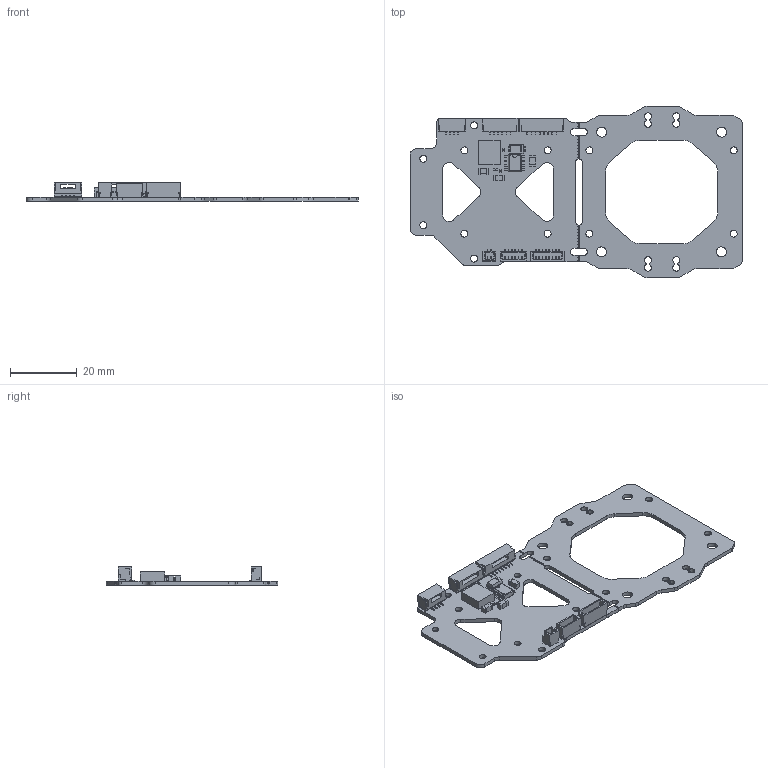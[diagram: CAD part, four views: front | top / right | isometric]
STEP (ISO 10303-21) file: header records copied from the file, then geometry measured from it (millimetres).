
FILE_DESCRIPTION(('CATIA V5 STEP Exchange'),'2;1');
FILE_NAME('C:\Users\liuchenhao\Desktop\C-20_Integrated_Base_Plate_Simplified_Model.stp','2025-05-08T05:37:37+00:00',('none'),('none'),'CATIA Version 5 Release 21 GA (IN-10)','CATIA V5 STEP AP214','none');
FILE_SCHEMA(('AUTOMOTIVE_DESIGN { 1 0 10303 214 1 1 1 1 }'));
Products named in the file (1): C-20_Integrated_Base_Plate
Bounding box: 99.75 x 51.5 x 5.57 mm (x, y, z)
Volume: 4323.5 mm3; surface area: 8931.5 mm2
Topology: 17 solids, 17 shells, 1413 faces, 3732 edges, 2360 vertices
Faces by surface type: plane 981, cylinder 317, bspline 91, sphere 24
Entity records: 49994 total; most frequent: CARTESIAN_POINT 16487, ORIENTED_EDGE 7378, DIRECTION 5825, EDGE_CURVE 3689, VECTOR 2909, LINE 2909, VERTEX_POINT 2360, AXIS2_PLACEMENT_3D 1595
